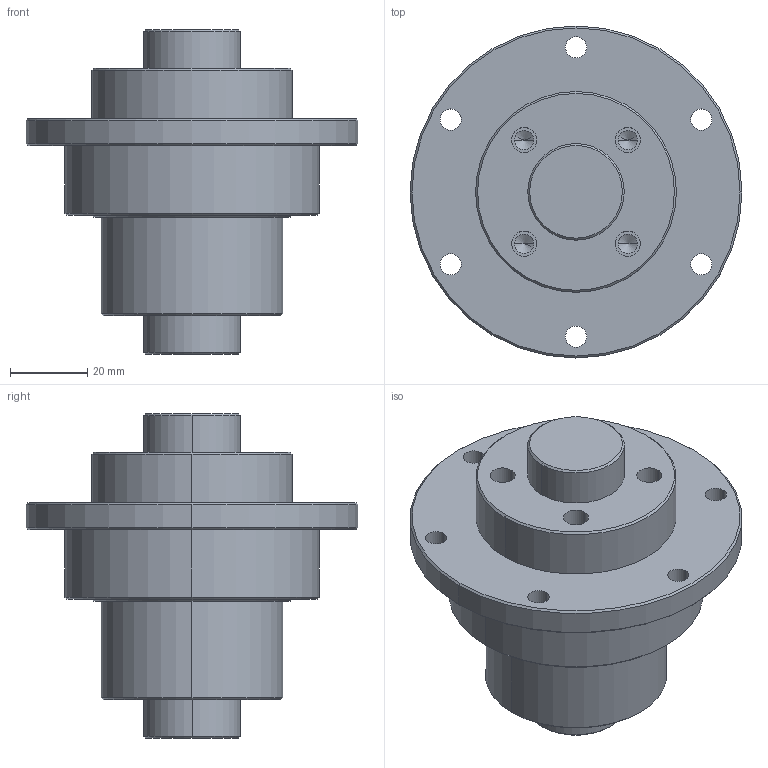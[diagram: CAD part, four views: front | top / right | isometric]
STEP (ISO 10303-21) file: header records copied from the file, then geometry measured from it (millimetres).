
FILE_DESCRIPTION (( 'STEP AP203' ), '1' );
FILE_NAME ('RFSY2525.STEP', '2014-11-13T05:13:47', ( '' ), ( '' ), 'SwSTEP 2.0', 'SolidWorks 2014', '' );
FILE_SCHEMA (( 'CONFIG_CONTROL_DESIGN' ));
Length unit declared in the file: millimetre
Products named in the file (1): RFSY2525
Bounding box: 86 x 86 x 84 mm (x, y, z)
Volume: 182233 mm3; surface area: 35947.7 mm2
Topology: 2 solids, 2 shells, 76 faces, 170 edges, 102 vertices
Faces by surface type: cylinder 40, cone 24, plane 12
Entity records: 2183 total; most frequent: DIRECTION 414, CARTESIAN_POINT 341, ORIENTED_EDGE 324, AXIS2_PLACEMENT_3D 175, EDGE_CURVE 162, EDGE_LOOP 102, VERTEX_POINT 102, CIRCLE 98
